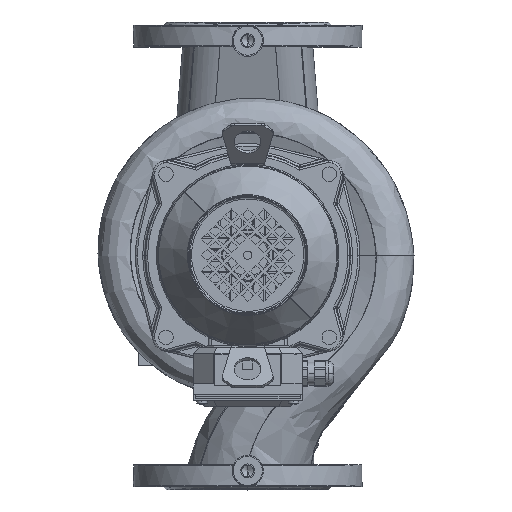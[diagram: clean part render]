
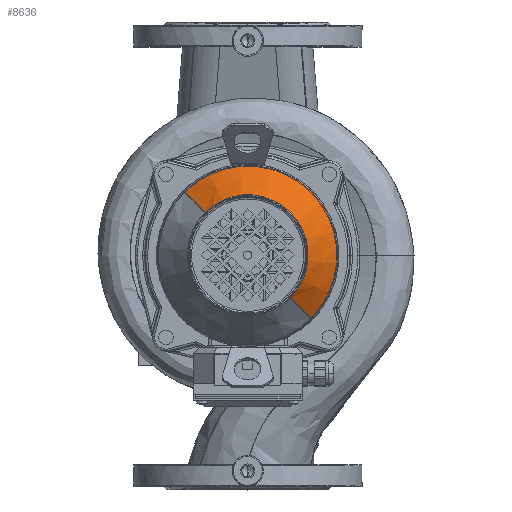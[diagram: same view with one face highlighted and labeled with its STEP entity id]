
A CAD part, top view. The second image highlights one B-rep face of the part: STEP entity #8636.
In plain terms, the highlighted conical face has half-angle 37 degrees and reference radius 58.108 mm.
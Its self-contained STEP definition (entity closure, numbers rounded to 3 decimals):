
#8636=ADVANCED_FACE('NONE',(#21099),#21100,.T.);
#21099=FACE_OUTER_BOUND('',#41008,.T.);
#21100=CONICAL_SURFACE('',#41009,58.108,0.646);
#41008=EDGE_LOOP('',(#58865,#58866,#58867,#58868));
#41009=AXIS2_PLACEMENT_3D('',#58869,#58870,#58871);
#58865=ORIENTED_EDGE('',*,*,#67838,.T.);
#58866=ORIENTED_EDGE('',*,*,#67916,.T.);
#58867=ORIENTED_EDGE('',*,*,#67839,.T.);
#58868=ORIENTED_EDGE('',*,*,#67942,.F.);
#58869=CARTESIAN_POINT('',(0.0,96.403,0.0));
#58870=DIRECTION('',(-0.0,-1.0,-0.0));
#58871=DIRECTION('',(0.0,0.0,-1.0));
#67838=EDGE_CURVE('',#81088,#81091,#81092,.T.);
#67839=EDGE_CURVE('',#81093,#81086,#81094,.T.);
#67916=EDGE_CURVE('NONE',#81091,#81093,#81225,.T.);
#67942=EDGE_CURVE('NONE',#81088,#81086,#81257,.T.);
#81086=VERTEX_POINT('',#104681);
#81088=VERTEX_POINT('NONE',#104683);
#81091=VERTEX_POINT('NONE',#104686);
#81092=LINE('',#104687,#104688);
#81093=VERTEX_POINT('',#104689);
#81094=LINE('',#104690,#104691);
#81225=CIRCLE('',#105184,86.592);
#81257=CIRCLE('',#105414,58.108);
#104681=CARTESIAN_POINT('',(0.,96.403,58.108));
#104683=CARTESIAN_POINT('',(0.,96.403,-58.108));
#104686=CARTESIAN_POINT('',(0.0,58.603,-86.592));
#104687=CARTESIAN_POINT('',(0.,96.403,-58.108));
#104688=VECTOR('',#115570,1.0);
#104689=CARTESIAN_POINT('',(0.,58.603,86.592));
#104690=CARTESIAN_POINT('',(0.,96.403,58.108));
#104691=VECTOR('',#115571,1.0);
#105184=AXIS2_PLACEMENT_3D('',#115698,#115699,#115700);
#105414=AXIS2_PLACEMENT_3D('',#115758,#115759,#115760);
#115570=DIRECTION('',(0.,-0.799,-0.602));
#115571=DIRECTION('',(0.,0.799,-0.602));
#115698=CARTESIAN_POINT('',(0.0,58.603,0.0));
#115699=DIRECTION('',(-0.0,1.0,0.0));
#115700=DIRECTION('',(0.0,0.0,1.0));
#115758=CARTESIAN_POINT('',(0.0,96.403,0.0));
#115759=DIRECTION('',(-0.0,1.0,0.0));
#115760=DIRECTION('',(0.0,0.0,1.0));
